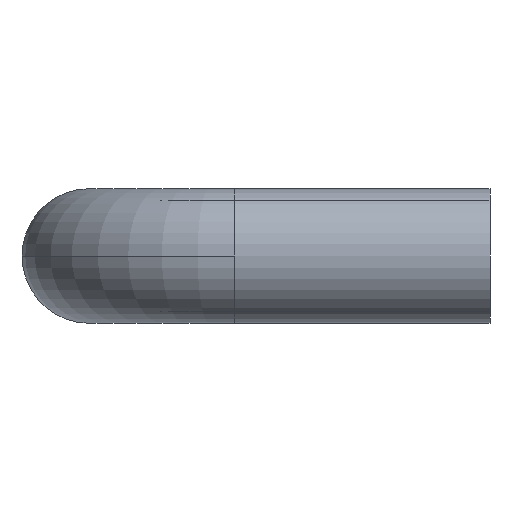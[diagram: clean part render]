
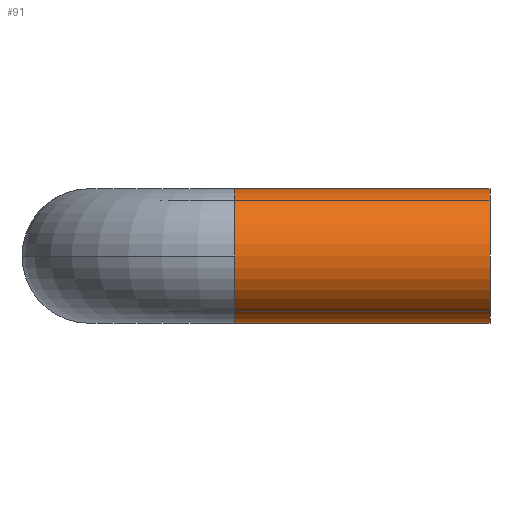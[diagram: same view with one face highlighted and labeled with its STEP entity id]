
A CAD part, front view. The second image highlights one B-rep face of the part: STEP entity #91.
In plain terms, the highlighted cylindrical face has radius 13.45 mm (diameter 26.9 mm), a partial arc.
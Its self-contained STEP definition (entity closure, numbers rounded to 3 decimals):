
#3 = AXIS2_PLACEMENT_3D ( 'NONE', #138, #180, #60 ) ;
#5 = EDGE_CURVE ( 'NONE', #465, #498, #272, .T. ) ;
#28 = CYLINDRICAL_SURFACE ( 'NONE', #334, 13.45 ) ;
#38 = VECTOR ( 'NONE', #429, 1000. ) ;
#60 = DIRECTION ( 'NONE',  ( 0., 0., -1. ) ) ;
#64 = CARTESIAN_POINT ( 'NONE',  ( -56., 12380., 5789.3 ) ) ;
#71 = DIRECTION ( 'NONE',  ( 0., 0., -1. ) ) ;
#78 = ORIENTED_EDGE ( 'NONE', *, *, #467, .T. ) ;
#86 = ORIENTED_EDGE ( 'NONE', *, *, #319, .F. ) ;
#91 = ADVANCED_FACE ( 'NONE', ( #184 ), #28, .T. ) ;
#101 = CARTESIAN_POINT ( 'NONE',  ( -56., 12380., 5762.4 ) ) ;
#104 = DIRECTION ( 'NONE',  ( 1., 0., 0. ) ) ;
#122 = VERTEX_POINT ( 'NONE', #64 ) ;
#136 = DIRECTION ( 'NONE',  ( 1., 0., 0. ) ) ;
#138 = CARTESIAN_POINT ( 'NONE',  ( -56., 12380., 5775.85 ) ) ;
#165 = CARTESIAN_POINT ( 'NONE',  ( -56., 12380., 5762.4 ) ) ;
#169 = CARTESIAN_POINT ( 'NONE',  ( -56., 12380., 5789.3 ) ) ;
#170 = CARTESIAN_POINT ( 'NONE',  ( -5., 12380., 5775.85 ) ) ;
#180 = DIRECTION ( 'NONE',  ( 1., 0., 0. ) ) ;
#184 = FACE_OUTER_BOUND ( 'NONE', #459, .T. ) ;
#212 = CARTESIAN_POINT ( 'NONE',  ( -56., 12380., 5775.85 ) ) ;
#213 = DIRECTION ( 'NONE',  ( 1., 0., 0. ) ) ;
#215 = CIRCLE ( 'NONE', #424, 13.45 ) ;
#222 = AXIS2_PLACEMENT_3D ( 'NONE', #170, #136, #321 ) ;
#234 = ORIENTED_EDGE ( 'NONE', *, *, #407, .T. ) ;
#272 = CIRCLE ( 'NONE', #222, 13.45 ) ;
#289 = CARTESIAN_POINT ( 'NONE',  ( -56., 12380., 5775.85 ) ) ;
#294 = CARTESIAN_POINT ( 'NONE',  ( -5., 12380., 5762.4 ) ) ;
#305 = VERTEX_POINT ( 'NONE', #165 ) ;
#319 = EDGE_CURVE ( 'NONE', #122, #465, #392, .T. ) ;
#321 = DIRECTION ( 'NONE',  ( 0., 0., -1. ) ) ;
#328 = VECTOR ( 'NONE', #104, 1000. ) ;
#334 = AXIS2_PLACEMENT_3D ( 'NONE', #289, #213, #71 ) ;
#335 = CIRCLE ( 'NONE', #3, 13.45 ) ;
#359 = DIRECTION ( 'NONE',  ( 0., 0., -1. ) ) ;
#366 = LINE ( 'NONE', #101, #328 ) ;
#392 = LINE ( 'NONE', #169, #38 ) ;
#399 = CARTESIAN_POINT ( 'NONE',  ( -5., 12380., 5789.3 ) ) ;
#402 = CARTESIAN_POINT ( 'NONE',  ( -56., 12366.55, 5775.85 ) ) ;
#407 = EDGE_CURVE ( 'NONE', #122, #481, #215, .T. ) ;
#411 = DIRECTION ( 'NONE',  ( 1., 0., 0. ) ) ;
#424 = AXIS2_PLACEMENT_3D ( 'NONE', #212, #411, #359 ) ;
#429 = DIRECTION ( 'NONE',  ( 1., 0., 0. ) ) ;
#435 = ORIENTED_EDGE ( 'NONE', *, *, #496, .T. ) ;
#440 = ORIENTED_EDGE ( 'NONE', *, *, #5, .F. ) ;
#459 = EDGE_LOOP ( 'NONE', ( #86, #234, #78, #435, #440 ) ) ;
#465 = VERTEX_POINT ( 'NONE', #399 ) ;
#467 = EDGE_CURVE ( 'NONE', #481, #305, #335, .T. ) ;
#481 = VERTEX_POINT ( 'NONE', #402 ) ;
#496 = EDGE_CURVE ( 'NONE', #305, #498, #366, .T. ) ;
#498 = VERTEX_POINT ( 'NONE', #294 ) ;
